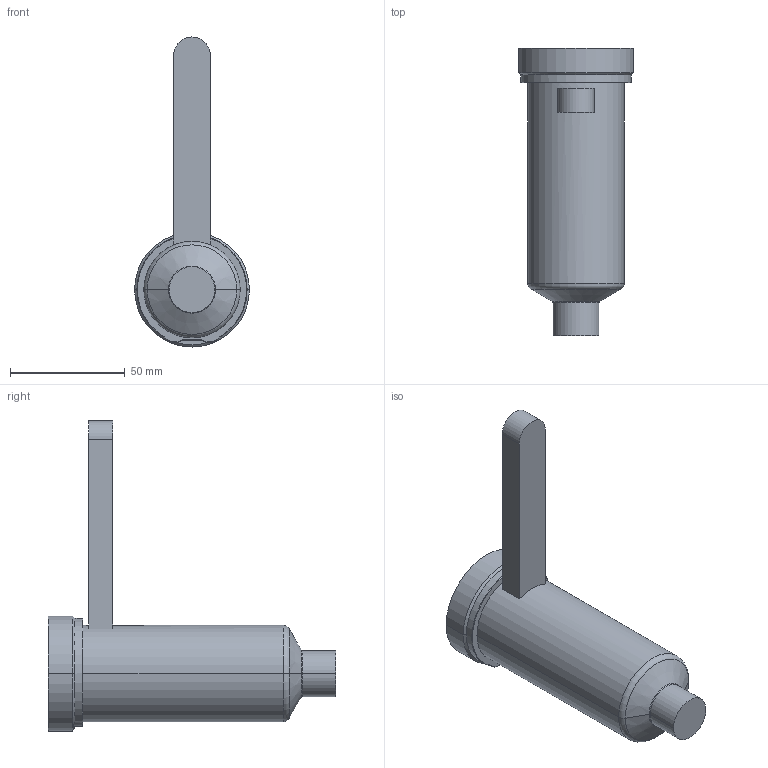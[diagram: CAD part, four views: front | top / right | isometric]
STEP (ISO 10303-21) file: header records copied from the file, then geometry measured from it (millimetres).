
FILE_DESCRIPTION((''),'2;1');
FILE_NAME('EO16_PG-FBE_WR_100_COT','2024-02-19T12:08:59',('sundharh'),(''),'CREO PARAMETRIC BY PTC INC, 2023154','CREO PARAMETRIC BY PTC INC, 2023154','');
FILE_SCHEMA(('CONFIG_CONTROL_DESIGN'));
Length unit declared in the file: millimetre
Products named in the file (1): EO16_PG-FBE_WR_100_COT
Bounding box: 50 x 125 x 135 mm (x, y, z)
Volume: 176331.4 mm3; surface area: 23574.2 mm2
Topology: 1 solids, 1 shells, 31 faces, 67 edges, 40 vertices
Faces by surface type: cylinder 11, plane 9, torus 7, cone 4
Entity records: 967 total; most frequent: CARTESIAN_POINT 234, DIRECTION 159, ORIENTED_EDGE 134, AXIS2_PLACEMENT_3D 67, EDGE_CURVE 67, VERTEX_POINT 40, CIRCLE 36, EDGE_LOOP 33
